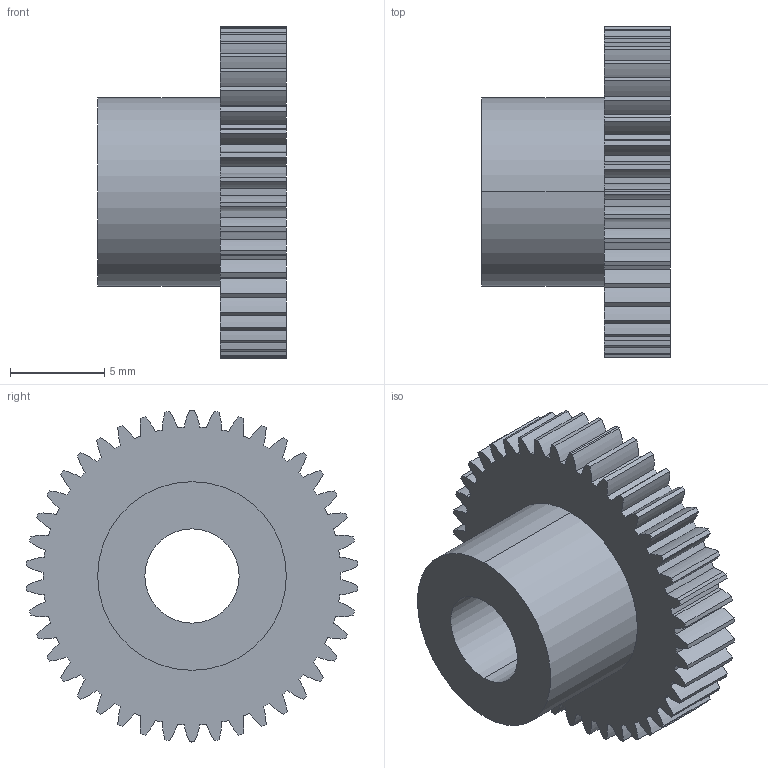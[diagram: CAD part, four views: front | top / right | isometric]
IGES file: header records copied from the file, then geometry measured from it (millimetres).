
Start section: 3D InterOp IGES (v. 2020 1.0.1), Spatial Corp. Copyright (c) 1999-2017.
Global section: file name: ssp04_w3_5_t42_b.igs; native system: Spatial Corp.; preprocessor: 3D InterOp ACIS/IGES; author: TraceParts; organization: TraceParts S.A.; date: 20220624.032143; units: millimetre
Bounding box: 10 x 17.57 x 17.6 mm (x, y, z)
Surface area: 1129.1 mm2 (no closed solid volume)
Topology: 0 solids, 0 shells, 185 faces, 1092 edges, 1092 vertices
Faces by surface type: revolution 182, extrusion 3
